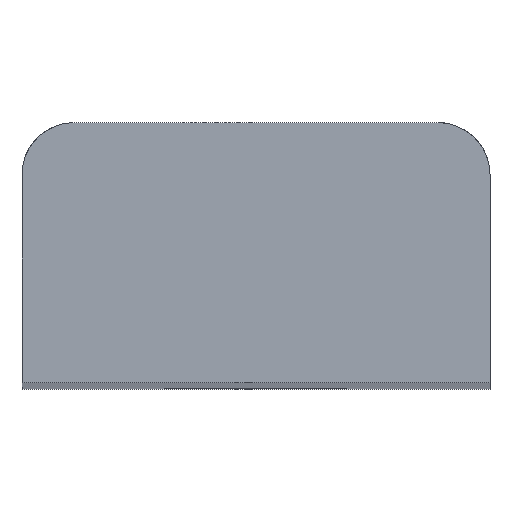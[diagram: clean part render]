
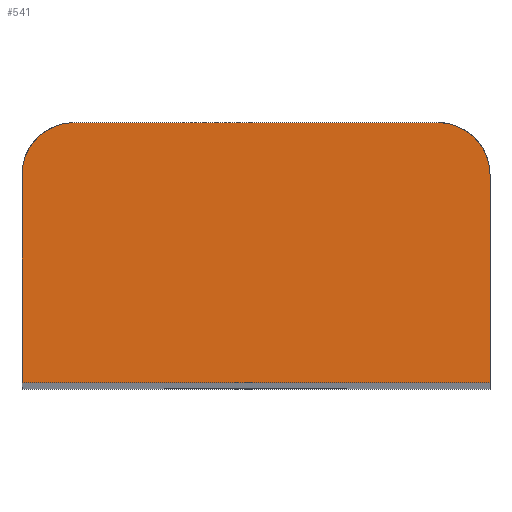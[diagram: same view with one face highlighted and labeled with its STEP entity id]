
A CAD part, top view. The second image highlights one B-rep face of the part: STEP entity #541.
In plain terms, the highlighted face is a extrusion surface.
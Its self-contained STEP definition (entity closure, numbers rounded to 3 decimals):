
#480=CARTESIAN_POINT('Control Point',(-9.,-5.,75.)) ;
#481=CARTESIAN_POINT('Control Point',(9.066,-5.,75.)) ;
#486=CARTESIAN_POINT('Control Point',(-7.,5.,75.)) ;
#487=CARTESIAN_POINT('Control Point',(-7.628,5.,75.)) ;
#488=CARTESIAN_POINT('Control Point',(-8.257,4.754,75.)) ;
#489=CARTESIAN_POINT('Control Point',(-8.754,4.257,75.)) ;
#490=CARTESIAN_POINT('Control Point',(-9.,3.628,75.)) ;
#491=CARTESIAN_POINT('Control Point',(-9.,3.,75.)) ;
#492=CARTESIAN_POINT('Vertex',(-7.,5.,75.)) ;
#494=CARTESIAN_POINT('Vertex',(-9.,3.,75.)) ;
#497=CARTESIAN_POINT('Line Origine',(-9.,0.,75.)) ;
#501=CARTESIAN_POINT('Vertex',(-9.,-5.,75.)) ;
#504=CARTESIAN_POINT('Line Origine',(0.,-5.,75.)) ;
#508=CARTESIAN_POINT('Vertex',(9.,-5.,75.)) ;
#511=CARTESIAN_POINT('Line Origine',(9.,0.,75.)) ;
#515=CARTESIAN_POINT('Vertex',(9.,3.,75.)) ;
#519=CARTESIAN_POINT('Control Point',(9.,3.,75.)) ;
#520=CARTESIAN_POINT('Control Point',(9.,3.628,75.)) ;
#521=CARTESIAN_POINT('Control Point',(8.754,4.257,75.)) ;
#522=CARTESIAN_POINT('Control Point',(8.257,4.754,75.)) ;
#523=CARTESIAN_POINT('Control Point',(7.628,5.,75.)) ;
#524=CARTESIAN_POINT('Control Point',(7.,5.,75.)) ;
#525=CARTESIAN_POINT('Vertex',(7.,5.,75.)) ;
#528=CARTESIAN_POINT('Line Origine',(0.,5.,75.)) ;
#482=DIRECTION('Vector Direction',(0.,1.,0.)) ;
#498=DIRECTION('Vector Direction',(0.,1.,0.)) ;
#505=DIRECTION('Vector Direction',(1.,0.,0.)) ;
#512=DIRECTION('Vector Direction',(0.,1.,0.)) ;
#529=DIRECTION('Vector Direction',(1.,0.,0.)) ;
#534=ORIENTED_EDGE('',*,*,#496,.T.) ;
#535=ORIENTED_EDGE('',*,*,#503,.T.) ;
#536=ORIENTED_EDGE('',*,*,#510,.T.) ;
#537=ORIENTED_EDGE('',*,*,#517,.T.) ;
#538=ORIENTED_EDGE('',*,*,#527,.T.) ;
#539=ORIENTED_EDGE('',*,*,#532,.T.) ;
#483=VECTOR('Extrusion Surface Vector',#482,1.) ;
#499=VECTOR('Line Direction',#498,1.) ;
#506=VECTOR('Line Direction',#505,1.) ;
#513=VECTOR('Line Direction',#512,1.) ;
#530=VECTOR('Line Direction',#529,1.) ;
#541=ADVANCED_FACE('Superficie.7',(#540),#484,.T.) ;
#479=B_SPLINE_CURVE_WITH_KNOTS('',1,(#480,#481),.UNSPECIFIED.,.F.,.U.,(2,2),(-9.,9.066),.UNSPECIFIED.) ;
#485=B_SPLINE_CURVE_WITH_KNOTS('',5,(#486,#487,#488,#489,#490,#491),.UNSPECIFIED.,.F.,.U.,(6,6),(0.,4.443),.UNSPECIFIED.) ;
#518=B_SPLINE_CURVE_WITH_KNOTS('',5,(#519,#520,#521,#522,#523,#524),.UNSPECIFIED.,.F.,.U.,(6,6),(0.,4.443),.UNSPECIFIED.) ;
#496=EDGE_CURVE('',#493,#495,#485,.T.) ;
#503=EDGE_CURVE('',#495,#502,#500,.F.) ;
#510=EDGE_CURVE('',#502,#509,#507,.T.) ;
#517=EDGE_CURVE('',#509,#516,#514,.T.) ;
#527=EDGE_CURVE('',#516,#526,#518,.T.) ;
#532=EDGE_CURVE('',#526,#493,#531,.F.) ;
#533=EDGE_LOOP('',(#534,#535,#536,#537,#538,#539)) ;
#540=FACE_OUTER_BOUND('',#533,.T.) ;
#500=LINE('Line',#497,#499) ;
#507=LINE('Line',#504,#506) ;
#514=LINE('Line',#511,#513) ;
#531=LINE('Line',#528,#530) ;
#484=SURFACE_OF_LINEAR_EXTRUSION('generated tabulated cylinder',#479,#483) ;
#493=VERTEX_POINT('',#492) ;
#495=VERTEX_POINT('',#494) ;
#502=VERTEX_POINT('',#501) ;
#509=VERTEX_POINT('',#508) ;
#516=VERTEX_POINT('',#515) ;
#526=VERTEX_POINT('',#525) ;
